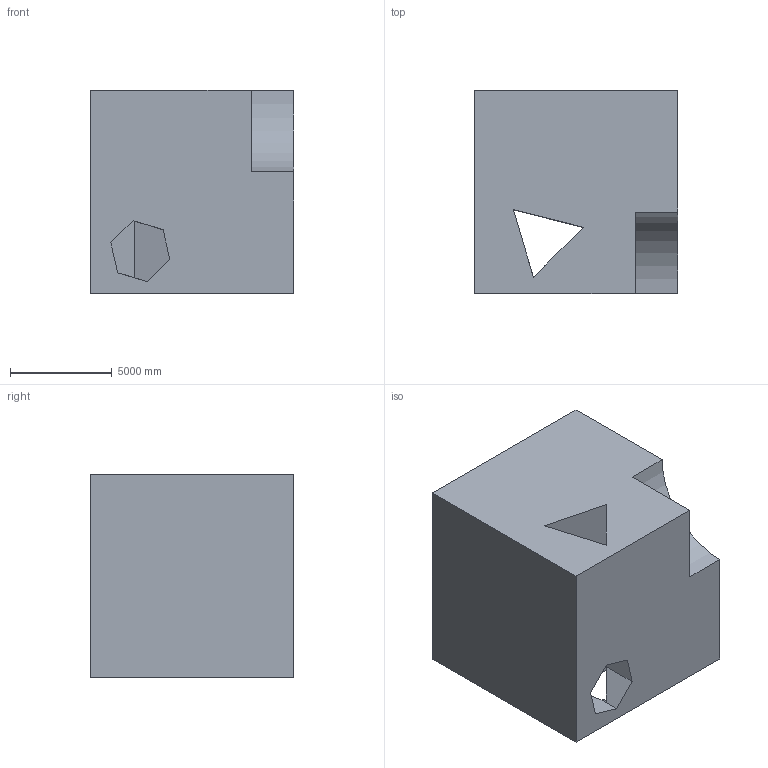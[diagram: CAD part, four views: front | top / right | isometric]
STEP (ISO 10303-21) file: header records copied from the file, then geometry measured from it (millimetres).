
FILE_DESCRIPTION (( 'STEP AP203' ), '1' );
FILE_NAME ('244.STEP', '2022-09-07T12:25:17', ( 'user' ), ( '' ), 'SwSTEP 2.0', 'SolidWorks 2021', '' );
FILE_SCHEMA (( 'CONFIG_CONTROL_DESIGN' ));
Length unit declared in the file: centimetre
Products named in the file (1): 244
Bounding box: 10000 x 10000 x 10000 mm (x, y, z)
Volume: 906990093182.2 mm3; surface area: 698607556.7 mm2
Topology: 1 solids, 1 shells, 18 faces, 51 edges, 34 vertices
Faces by surface type: plane 17, cylinder 1
Entity records: 662 total; most frequent: CARTESIAN_POINT 104, ORIENTED_EDGE 102, DIRECTION 91, EDGE_CURVE 51, LINE 49, VECTOR 49, VERTEX_POINT 34, EDGE_LOOP 21
